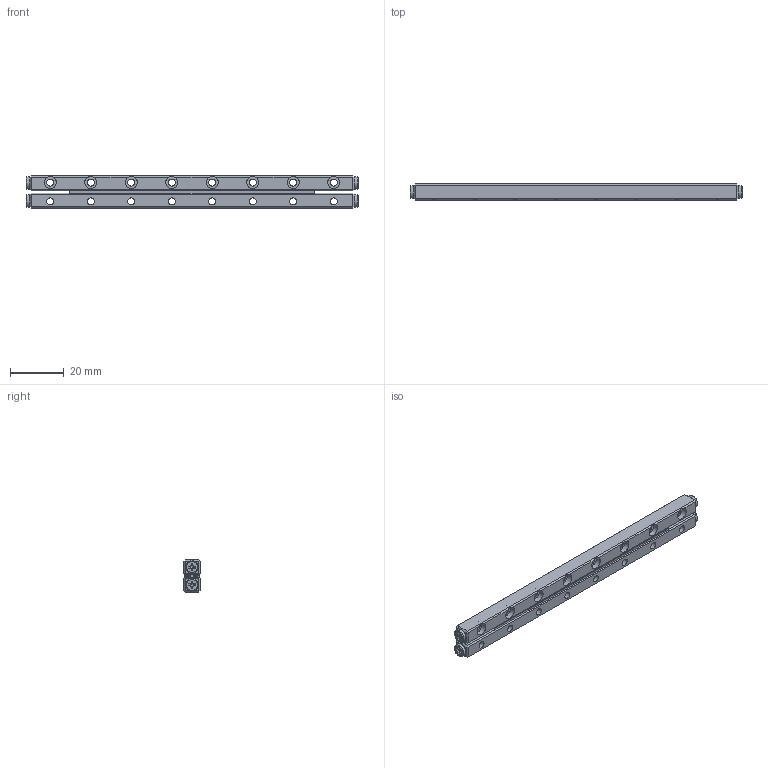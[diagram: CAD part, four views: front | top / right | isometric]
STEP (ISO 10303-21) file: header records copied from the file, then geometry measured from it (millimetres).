
FILE_DESCRIPTION (( 'STEP AP203' ), '1' );
FILE_NAME ('組合件-軌道組-GRG02-0120H-34Z-模糊化軌道組.STEP', '2022-11-28T06:02:49', ( '' ), ( '' ), 'SwSTEP 2.0', 'SolidWorks 2019', '' );
FILE_SCHEMA (( 'CONFIG_CONTROL_DESIGN' ));
Length unit declared in the file: millimetre
Products named in the file (1): 組合件-軌道組-GRG02-0120H-34Z-模糊化軌道組
Bounding box: 123 x 6 x 12 mm (x, y, z)
Volume: 7237.6 mm3; surface area: 8034.3 mm2
Topology: 3 solids, 7 shells, 722 faces, 2000 edges, 1288 vertices
Faces by surface type: plane 496, cylinder 110, torus 76, cone 40
Full cylindrical faces by diameter (mm): 2.1 x4, 2.6 x16, 4.5 x16, 4.7 x4
Entity records: 22893 total; most frequent: CARTESIAN_POINT 5895, ORIENTED_EDGE 3816, DIRECTION 3262, EDGE_CURVE 1908, VERTEX_POINT 1252, AXIS2_PLACEMENT_3D 1179, LINE 904, VECTOR 904
